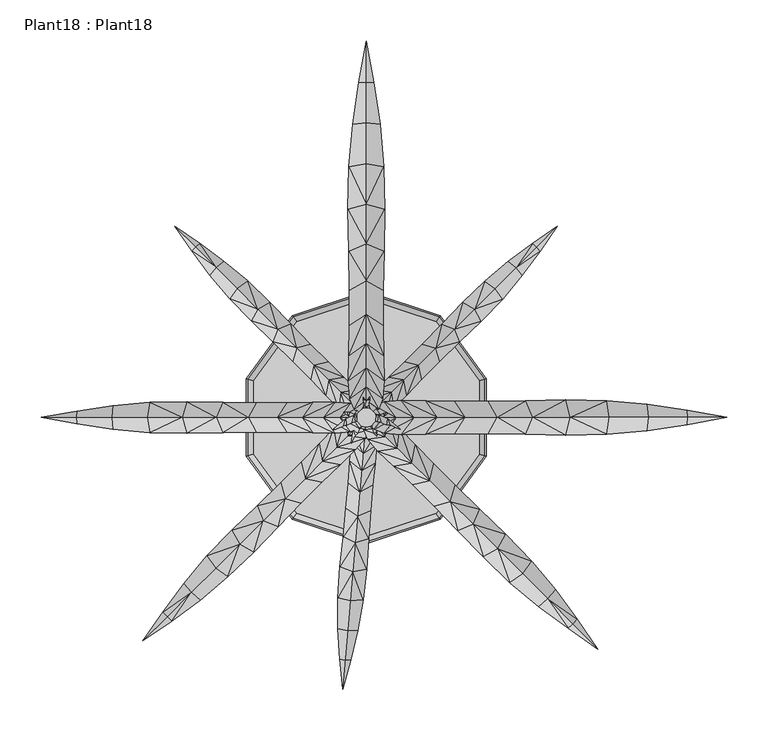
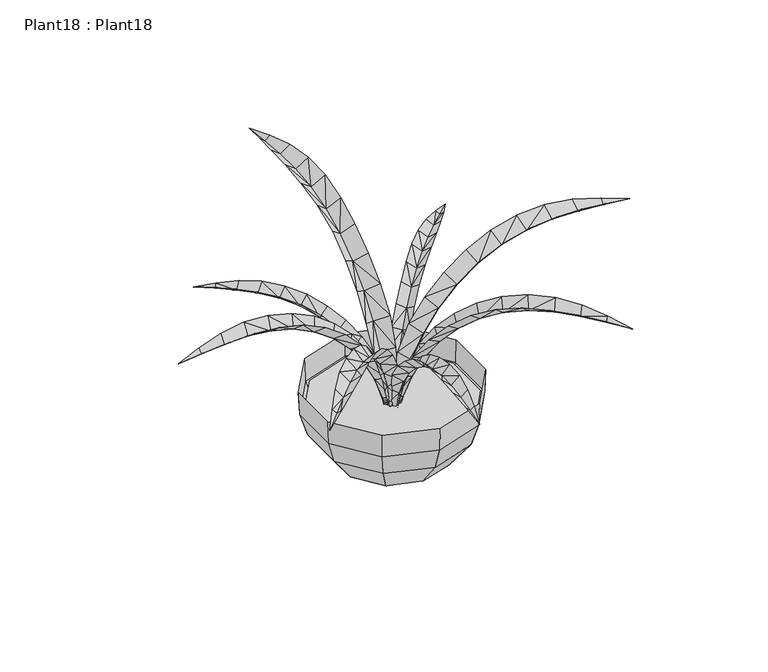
"""IFC4 building model written with IfcOpenShell, lengths in millimetres: proxy geometry, Plant18 : Plant18."""

from ifc_helpers import new_model, si_unit, origin, place, context, project, spatial, triangles, source, transform, mapped, element, save


def plant18_plant18_a010a351(model_context):
    return source(origin(), model_context, "Body", "Tessellation", [
        triangles([(231.0383868, 231.0383868, 282.7934399), (210.4644064, 201.259445, 292.3641493), (180.9902425, 180.9902425, 289.7733554), (188.7321573, 171.7852811, 299.8927232), (155.8747152, 155.8747152, 290.3524807), (164.9272695, 143.2559996, 303.1540794), (139.1107221, 116.4335998, 300.4718485), (130.8811191, 130.8811191, 286.7863285), (88.6663176, 67.7570379, 275.2648842), (113.0198456, 91.2876056, 291.297354), (67.1779172, 46.207681, 253.01448), (48.7984794, 27.1271982, 225.9177509), (33.5280021, 11.4604798, 194.7976846), (45.4456772, 45.4456772, 215.127839), (19.05, 19.05, 153.1315142), (21.4579199, 1.3716001, 159.9895258), (5.69976, -2.25552, 85.0696803), (12.4358404, -2.5907999, 122.8953602), (201.259445, 210.4644064, 292.3641493), (206.0448179, 206.0448179, 286.8167953), (171.7852811, 188.7321573, 299.8927232), (143.2559996, 164.9272695, 303.1540794), (116.4335998, 139.1107221, 300.4718485), (83.8809628, 83.8809628, 261.7927232), (91.2876056, 113.0198456, 291.297354), (106.6190372, 106.6190372, 277.3375229), (67.7570379, 88.6663176, 275.2648842), (63.3069598, 63.3069598, 240.8529585), (46.207681, 67.1779172, 253.01448), (11.4604798, 33.5280021, 194.7976846), (27.1271982, 48.7984794, 225.9177509), (30.6628813, 30.6628813, 185.5622382), (-2.5907999, 12.4358404, 122.8953602), (1.3716001, 21.4579199, 159.9895258), (10.4851204, 10.4851204, 118.7195976), (-2.25552, 5.69976, 85.0696803), (4.5415199, 4.5415199, 83.1189545), (9.0525605, 405.2316241, 388.4676038), (16.6725606, 354.8176955, 398.9222345), (22.3113607, 251.4904814, 399.7451858), (21.3360001, 303.2759833, 403.4942302), (0.0, 257.5864756, 380.6951858), (20.6044813, 153.9239985, 364.6627341), (21.3969611, 201.0765528, 386.9740903), (0.0, 209.8547961, 367.5583423), (20.6349596, 111.587275, 333.6950386), (0.0, 89.4892779, 280.9646271), (21.3055196, 74.7369579, 295.9912899), (19.781521, 22.463761, 204.2160051), (21.7017595, 44.2874403, 252.6487319), (0.0, 60.3503997, 239.81663), (7.8333603, 3.3832802, 99.9439177), (14.8132798, 9.6926394, 152.582874), (0.0, 8.9611201, 97.2312017), (-9.0525605, 405.2316241, 388.4676038), (0.0, 454.7615951, 375.1478499), (-16.6725606, 354.8176955, 398.9222345), (0.0, 405.5668871, 380.7256708), (-21.3360001, 303.2759833, 403.4942302), (0.0, 306.8116868, 385.6634508), (0.0, 356.2502389, 384.8709483), (-22.3113607, 251.4904814, 399.7451858), (-20.6044813, 153.9239985, 364.6627341), (-21.3969611, 201.0765528, 386.9740903), (0.0, 165.1406286, 345.917512), (-20.6349596, 111.587275, 333.6950386), (-21.3055196, 74.7369579, 295.9912899), (0.0, 124.6022418, 316.7786293), (-21.7017595, 44.2874403, 252.6487319), (-19.781521, 22.463761, 204.2160051), (0.0, 37.4599205, 194.6452775), (0.0, 20.6349596, 146.7611999), (-7.8333603, 3.3832802, 99.9439177), (-14.8132798, 9.6926394, 152.582874), (-201.6861631, 210.9215914, 292.8823226), (-231.526075, 231.526075, 283.3116132), (-206.471536, 206.471536, 287.3044836), (-172.1510292, 189.1284086, 300.4108784), (-143.5607957, 165.2625688, 303.7027378), (-116.6774348, 139.3850332, 300.9900036), (-106.8323962, 106.8323962, 277.825193), (-67.8789599, 88.8492007, 275.7220692), (-91.4704796, 113.2636806, 291.8155273), (-46.2991225, 67.2998392, 253.4411981), (-27.1881592, 48.889921, 226.2835171), (-30.72384, 30.72384, 185.8365674), (-11.4909604, 33.5889586, 195.1024807), (-10.4851204, 10.4851204, 118.8415197), (2.5907999, 12.4663198, 123.0477582), (-1.3716001, 21.4884004, 160.2028849), (2.2860001, 5.69976, 85.1306413), (-210.9215914, 201.6861631, 292.8823226), (-189.1284086, 172.1510292, 300.4108784), (-181.3864756, 181.3864756, 290.2915106), (-165.2625688, 143.5607957, 303.7027378), (-156.2099964, 156.2099964, 290.8706358), (-131.1554392, 131.1554392, 287.2740167), (-113.2636806, 91.4704796, 291.8155273), (-139.3850332, 116.6774348, 300.9900036), (-63.4288818, 63.4288818, 241.2492097), (-88.8492007, 67.8789599, 275.7220692), (-84.0638459, 84.0638459, 262.2499083), (-67.2998392, 46.2991225, 253.4411981), (-33.5889586, 11.4909604, 195.1024807), (-48.889921, 27.1881592, 226.2835171), (-45.5675992, 45.5675992, 215.463102), (-21.4884004, 1.3716001, 160.2028849), (-12.4663198, -2.5907999, 123.0477582), (-19.0804805, 19.0804805, 153.3448733), (-5.69976, -2.2860001, 85.1306413), (-4.5720002, 4.5720002, 83.1799246), (-392.9176955, 0.0, 330.5251376), (-350.1237597, 7.8333603, 342.0465637), (-306.5678427, 14.4170399, 351.0686511), (-217.2919148, 19.2633613, 351.7696984), (-222.5649578, 0.0, 335.310456), (-262.0365492, 18.4403999, 355.0005695), (-173.7359978, 18.4708793, 340.7664093), (-181.3255237, 0.0, 323.9719039), (-132.9842429, 17.8003204, 321.4725652), (-107.6553565, 0.0, 280.080724), (-96.4082414, 17.8308009, 294.7111354), (-38.2524026, 18.7451994, 224.6985666), (-77.2972804, 0.0, 249.1435135), (-64.5871187, 18.4099194, 262.1279862), (-8.3820005, 12.8015998, 138.2572859), (-19.3852789, 17.0992799, 182.8495222), (-2.9260799, 6.7665604, 92.750634), (-306.5678427, -14.4170399, 351.0686511), (-307.817512, 0.0, 338.9375965), (-350.1237597, -7.8333603, 342.0465637), (-350.4285739, 0.0, 335.3409774), (-265.0845644, 0.0, 339.6081588), (-262.0365492, -18.4403999, 355.0005695), (-217.2919148, -19.2633613, 351.7696984), (-132.9842429, -17.8003204, 321.4725652), (-173.7359978, -18.4708793, 340.7664093), (-142.6768744, 0.0, 305.2572032), (-96.4082414, -17.8308009, 294.7111354), (-64.5871187, -18.4099194, 262.1279862), (-19.3852789, -17.0992799, 182.8495222), (-38.2524026, -18.7451994, 224.6985666), (-52.1512817, 0.0, 213.6038405), (-17.8308009, 0.0, 133.197602), (-8.3820005, -12.8015998, 138.2572859), (-32.3697607, 0.0, 174.5894341), (-7.7419199, 0.0, 90.4036843), (-2.9260799, -6.7665604, 92.750634), (-32.1868798, -292.3946344, 294.8330393), (-28.7731188, -328.7877437, 285.2013598), (-25.6641607, -293.2175856, 289.2247152), (-34.5947997, -217.931992, 305.7448915), (-19.4157594, -221.8029585, 292.8213707), (-34.5033604, -255.48337, 302.422547), (-32.0344795, -180.4111173, 303.0321573), (-28.1940004, -144.0179989, 293.766244), (-24.6278413, -109.9718394, 277.550882), (-5.66928, -64.6785603, 216.8347298), (-20.1472804, -52.6999219, 227.7160968), (-21.9760796, -79.3699192, 255.0871187), (-15.7276794, -14.9961595, 161.1172913), (-18.5013598, -30.6323985, 196.2911981), (-11.3080795, -6.0959999, 123.6573594), (-2.3774399, -27.09672, 154.1983096), (-1.31064, -14.9047191, 119.4206449), (-5.8826402, -1.9507201, 85.4354374), (-0.57912, -6.4922403, 83.4847207), (-19.0804805, -293.5528849, 294.8330393), (-22.5247198, -257.5864756, 292.2422454), (-10.3936799, -257.5864756, 302.422547), (0.21336, -183.2457553, 303.0321573), (-3.7490399, -220.6142411, 305.7448915), (2.7432002, -146.730724, 293.766244), (-16.3068001, -186.2328004, 289.1942483), (5.1511203, -112.5931184, 277.550882), (-13.289279, -151.7294377, 279.6540058), (-10.4546398, -119.3901599, 263.956799), (-7.8943196, -90.0988791, 242.8036933), (10.668, -55.3821573, 227.7160968), (7.8638397, -81.9911981, 255.0871187), (12.8930402, -33.3755995, 196.2911981), (-3.8100001, -43.6473585, 186.9643147), (10.0888793, -7.9552801, 123.6573594), (12.8625597, -17.4955198, 161.1172913), (5.4559198, -2.9260799, 85.4354374), (243.9619257, -255.1175856, 344.3935135), (208.2393424, -228.7828922, 353.5070197), (219.3950386, -219.3950386, 341.2540612), (173.6445608, -199.9183205, 357.4694232), (188.9455164, -188.9455164, 341.9551085), (110.6728867, -137.0075983, 343.1133591), (141.1528758, -168.615362, 354.208067), (56.0222391, -81.4120819, 296.6923372), (82.1131202, -107.4724825, 323.667126), (32.8879203, -59.1616823, 263.865362), (13.8988802, -40.6298374, 226.13111), (1.64592, -25.9994395, 183.9163176), (37.1551199, -37.1551199, 214.91448), (-3.1394401, -15.0875999, 138.9888001), (-2.7432002, -6.8884802, 93.1164002), (5.5168797, -5.5168797, 90.7694414), (280.0502571, -280.0502571, 332.8111173), (255.1175856, -243.9619257, 344.3935135), (249.7531238, -249.7531238, 337.6574421), (228.7828922, -208.2393424, 353.5070197), (199.9183205, -173.6445608, 357.4694232), (158.6484013, -158.6484013, 337.626957), (137.0075983, -110.6728867, 343.1133591), (168.615362, -141.1528758, 354.208067), (107.4724825, -82.1131202, 323.667126), (129.2351985, -129.2351985, 326.1664647), (76.7486402, -76.7486402, 281.9704887), (101.6812844, -101.6812844, 307.3298238), (59.1616823, -32.8879203, 263.865362), (81.4120819, -56.0222391, 296.6923372), (55.1078418, -55.1078418, 250.7589672), (23.07336, -23.07336, 175.5952775), (40.6298374, -13.8988802, 226.13111), (12.7101606, -12.7101606, 133.8986311), (25.9994395, -1.64592, 183.9163176), (15.0875999, 3.1394401, 138.9888001), (6.8884802, 2.7432002, 93.1164002), (435.6506249, 0.0, 361.3708566), (388.5285739, 0.0, 366.7048697), (339.9129367, -15.971519, 384.1394523), (388.1932746, -8.6868, 374.1115033), (240.9443955, -21.3664806, 384.9319184), (290.5353729, -20.4216005, 388.5285739), (246.7660968, 0.0, 366.6743846), (201.0460859, 0.0, 354.0861631), (147.4622473, -19.72056, 351.3124589), (192.6336089, -20.4825593, 372.709445), (119.3596839, 0.0, 305.4400772), (158.1911981, 0.0, 333.3597756), (106.8933573, -19.7510405, 321.6554392), (71.5975193, -20.4216005, 285.5366409), (42.4281606, -20.7873599, 244.0228776), (35.9054392, 0.0, 188.4578463), (21.5188786, -18.9585596, 197.6018376), (19.7510405, 0.0, 142.5854374), (3.2308802, -7.4980798, 97.7188809), (9.2964001, -14.1732003, 148.1632764), (8.5953602, 0.0, 95.1280779), (388.1932746, 8.6868, 374.1115033), (341.2845826, 0.0, 370.6672731), (339.9129367, 15.971519, 384.1394523), (293.9186329, 0.0, 371.4597756), (240.9443955, 21.3664806, 384.9319184), (290.5353729, 20.4216005, 388.5285739), (192.6336089, 20.4825593, 372.709445), (147.4622473, 19.72056, 351.3124589), (106.8933573, 19.7510405, 321.6554392), (71.5975193, 20.4216005, 285.5366409), (42.4281606, 20.7873599, 244.0228776), (85.7097575, 0.0, 271.1500917), (57.8205623, 0.0, 231.7089672), (21.5188786, 18.9585596, 197.6018376), (9.2964001, 14.1732003, 148.1632764), (3.2308802, 7.4980798, 97.7188809), (-240.8834254, -240.8834254, 327.3552003), (-246.0650495, -235.3056045, 333.8474639), (-220.675193, -200.8327087, 342.6256708), (-211.5921719, -211.5921719, 330.8299155), (-192.8164829, -167.4571296, 346.4661704), (-153.0096103, -153.0096103, 327.2942302), (-124.6632028, -124.6632028, 316.260456), (-162.6412899, -136.123677, 343.3267181), (-103.6624861, -79.1870361, 313.8525361), (-132.1308066, -106.7409683, 332.5977582), (-57.058563, -31.7296789, 256.1539141), (-78.5469589, -54.0410373, 287.8226388), (-39.1972804, -13.4111999, 219.7608048), (-53.157116, -53.157116, 243.5352076), (-25.08504, -1.58496, 179.0700109), (-35.8444804, -35.8444804, 208.9708747), (-12.2529596, -12.2529596, 130.8201671), (-22.2503997, -22.2503997, 171.0537488), (-5.334, -5.334, 89.2149578), (-6.6446395, 2.65176, 91.4704796), (-14.5694402, 3.01752, 135.7274348), (0.0, 0.0, 47.0915978), (-270.1137633, -270.1137633, 322.6613008), (-235.3056045, -246.0650495, 333.8474639), (-182.2399119, -182.2399119, 331.5004778), (-200.8327087, -220.675193, 342.6256708), (-167.4571296, -192.8164829, 346.4661704), (-136.123677, -162.6412899, 343.3267181), (-106.7409683, -132.1308066, 332.5977582), (-98.084638, -98.084638, 298.0943955), (-79.1870361, -103.6624861, 313.8525361), (-31.7296789, -57.058563, 256.1539141), (-74.0054392, -74.0054392, 273.6189636), (-54.0410373, -78.5469589, 287.8226388), (-13.4111999, -39.1972804, 219.7608048), (-1.58496, -25.08504, 179.0700109), (3.01752, -14.5694402, 135.7274348), (2.65176, -6.6446395, 91.4704796)], [[1, 20, 2], [2, 3, 4], [20, 3, 2], [4, 5, 6], [3, 5, 4], [6, 8, 7], [5, 8, 6], [7, 26, 10], [8, 26, 7], [10, 24, 9], [26, 24, 10], [11, 24, 28], [9, 24, 11], [12, 28, 14], [11, 28, 12], [13, 14, 32], [12, 14, 13], [16, 32, 15], [13, 32, 16], [18, 15, 35], [16, 15, 18], [17, 35, 37], [18, 35, 17], [37, 281, 17], [20, 1, 19], [3, 19, 21], [3, 20, 19], [5, 21, 22], [5, 3, 21], [8, 22, 23], [8, 5, 22], [26, 23, 25], [26, 8, 23], [24, 25, 27], [24, 26, 25], [24, 29, 28], [24, 27, 29], [28, 31, 14], [28, 29, 31], [14, 30, 32], [14, 31, 30], [32, 34, 15], [32, 30, 34], [15, 33, 35], [15, 34, 33], [35, 36, 37], [35, 33, 36], [281, 37, 36], [56, 58, 38], [38, 61, 39], [58, 61, 38], [39, 60, 41], [61, 60, 39], [41, 42, 40], [60, 42, 41], [40, 45, 44], [42, 45, 40], [44, 65, 43], [45, 65, 44], [46, 65, 68], [43, 65, 46], [48, 68, 47], [46, 68, 48], [50, 47, 51], [48, 47, 50], [49, 51, 71], [50, 51, 49], [53, 71, 72], [49, 71, 53], [52, 72, 54], [53, 72, 52], [54, 281, 52], [58, 56, 55], [61, 55, 57], [61, 58, 55], [60, 57, 59], [60, 61, 57], [42, 59, 62], [42, 60, 59], [45, 62, 64], [45, 42, 62], [65, 64, 63], [65, 45, 64], [65, 66, 68], [65, 63, 66], [68, 67, 47], [68, 66, 67], [47, 69, 51], [47, 67, 69], [51, 70, 71], [51, 69, 70], [71, 74, 72], [71, 70, 74], [72, 73, 54], [72, 74, 73], [281, 54, 73], [77, 76, 75], [94, 75, 78], [94, 77, 75], [96, 78, 79], [96, 94, 78], [97, 79, 80], [97, 96, 79], [81, 80, 83], [81, 97, 80], [102, 83, 82], [102, 81, 83], [102, 84, 100], [102, 82, 84], [100, 85, 106], [100, 84, 85], [106, 87, 86], [106, 85, 87], [86, 90, 109], [86, 87, 90], [109, 89, 88], [109, 90, 89], [88, 91, 111], [88, 89, 91], [281, 111, 91], [76, 77, 92], [92, 94, 93], [77, 94, 92], [93, 96, 95], [94, 96, 93], [95, 97, 99], [96, 97, 95], [99, 81, 98], [97, 81, 99], [98, 102, 101], [81, 102, 98], [103, 102, 100], [101, 102, 103], [105, 100, 106], [103, 100, 105], [104, 106, 86], [105, 106, 104], [107, 86, 109], [104, 86, 107], [108, 109, 88], [107, 109, 108], [110, 88, 111], [108, 88, 110], [111, 281, 110], [112, 132, 113], [113, 130, 114], [132, 130, 113], [114, 133, 117], [130, 133, 114], [117, 116, 115], [133, 116, 117], [115, 119, 118], [116, 119, 115], [118, 138, 120], [119, 138, 118], [122, 138, 121], [120, 138, 122], [125, 121, 124], [122, 121, 125], [123, 124, 143], [125, 124, 123], [127, 143, 146], [123, 143, 127], [126, 146, 144], [127, 146, 126], [128, 144, 147], [126, 144, 128], [147, 281, 128], [132, 112, 131], [130, 131, 129], [130, 132, 131], [133, 129, 134], [133, 130, 129], [116, 134, 135], [116, 133, 134], [119, 135, 137], [119, 116, 135], [138, 137, 136], [138, 119, 137], [138, 139, 121], [138, 136, 139], [121, 140, 124], [121, 139, 140], [124, 142, 143], [124, 140, 142], [143, 141, 146], [143, 142, 141], [146, 145, 144], [146, 141, 145], [144, 148, 147], [144, 145, 148], [281, 147, 148], [150, 151, 149], [149, 169, 154], [151, 169, 149], [154, 153, 152], [169, 153, 154], [152, 174, 155], [153, 174, 152], [155, 176, 156], [174, 176, 155], [156, 177, 157], [176, 177, 156], [160, 177, 178], [157, 177, 160], [159, 178, 158], [160, 178, 159], [162, 158, 182], [159, 158, 162], [161, 182, 164], [162, 182, 161], [163, 164, 165], [161, 164, 163], [166, 165, 167], [163, 165, 166], [167, 281, 166], [151, 150, 168], [169, 168, 170], [169, 151, 168], [153, 170, 172], [153, 169, 170], [174, 172, 171], [174, 153, 172], [176, 171, 173], [176, 174, 171], [177, 173, 175], [177, 176, 173], [177, 180, 178], [177, 175, 180], [178, 179, 158], [178, 180, 179], [158, 181, 182], [158, 179, 181], [182, 184, 164], [182, 181, 184], [164, 183, 165], [164, 184, 183], [165, 185, 167], [165, 183, 185], [281, 167, 185], [204, 202, 186], [188, 186, 187], [188, 204, 186], [190, 187, 189], [190, 188, 187], [207, 189, 192], [207, 190, 189], [211, 192, 191], [211, 207, 192], [213, 191, 194], [213, 211, 191], [213, 193, 212], [213, 194, 193], [212, 195, 216], [212, 193, 195], [216, 196, 198], [216, 195, 196], [198, 197, 217], [198, 196, 197], [217, 199, 219], [217, 197, 199], [219, 200, 201], [219, 199, 200], [281, 201, 200], [202, 204, 203], [203, 188, 205], [204, 188, 203], [205, 190, 206], [188, 190, 205], [206, 207, 209], [190, 207, 206], [209, 211, 208], [207, 211, 209], [208, 213, 210], [211, 213, 208], [215, 213, 212], [210, 213, 215], [214, 212, 216], [215, 212, 214], [218, 216, 198], [214, 216, 218], [220, 198, 217], [218, 198, 220], [221, 217, 219], [220, 217, 221], [222, 219, 201], [221, 219, 222], [201, 281, 222], [223, 224, 226], [226, 245, 225], [224, 245, 226], [225, 247, 228], [245, 247, 225], [228, 229, 227], [247, 229, 228], [227, 230, 232], [229, 230, 227], [232, 234, 231], [230, 234, 232], [235, 234, 233], [231, 234, 235], [236, 233, 255], [235, 233, 236], [237, 255, 256], [236, 255, 237], [239, 256, 238], [237, 256, 239], [242, 238, 240], [239, 238, 242], [241, 240, 243], [242, 240, 241], [243, 281, 241], [224, 223, 244], [245, 244, 246], [245, 224, 244], [247, 246, 249], [247, 245, 246], [229, 249, 248], [229, 247, 249], [230, 248, 250], [230, 229, 248], [234, 250, 251], [234, 230, 250], [234, 252, 233], [234, 251, 252], [233, 253, 255], [233, 252, 253], [255, 254, 256], [255, 253, 254], [256, 257, 238], [256, 254, 257], [238, 258, 240], [238, 257, 258], [240, 259, 243], [240, 258, 259], [281, 243, 259], [282, 260, 261], [261, 263, 262], [260, 263, 261], [262, 284, 264], [263, 284, 262], [264, 265, 267], [284, 265, 264], [267, 266, 269], [265, 266, 267], [269, 289, 268], [266, 289, 269], [271, 289, 292], [268, 289, 271], [270, 292, 273], [271, 292, 270], [272, 273, 275], [270, 273, 272], [274, 275, 277], [272, 275, 274], [280, 277, 276], [274, 277, 280], [279, 276, 278], [280, 276, 279], [278, 281, 279], [260, 282, 283], [263, 283, 285], [263, 260, 283], [284, 285, 286], [284, 263, 285], [265, 286, 287], [265, 284, 286], [266, 287, 288], [266, 265, 287], [289, 288, 290], [289, 266, 288], [289, 293, 292], [289, 290, 293], [292, 291, 273], [292, 293, 291], [273, 294, 275], [273, 291, 294], [275, 295, 277], [275, 294, 295], [277, 296, 276], [277, 295, 296], [276, 297, 278], [276, 296, 297], [281, 278, 297]], closed=False),
        triangles([(143.1035925, -46.5124816, 117.3784822), (144.9323962, -47.0915978, 160.1419148), (144.9323962, 47.0915978, 160.1419148), (130.4239159, -42.3671996, 75.6513598), (94.4575248, 30.6933595, 25.7860805), (41.3003997, 13.4111999, 0.42672), (94.4575248, -30.6933595, 25.7860805), (25.5117604, -35.1434399, 0.42672), (41.3003997, -13.4111999, 0.42672), (89.5807149, -123.2916023, 160.1419148), (0.0, -152.4, 160.1419148), (88.4529585, -121.7371187, 117.3784822), (0.0, -150.4797593, 117.3784822), (58.3692025, -80.3452775, 25.7860805), (80.6195976, -110.9471977, 75.6513598), (0.0, -99.3038405, 25.7860805), (-88.4529585, -121.7371187, 117.3784822), (-89.5807149, -123.2916023, 160.1419148), (0.0, -137.1295204, 75.6513598), (-58.3692025, -80.3452775, 25.7860805), (0.0, -43.4339995, 0.42672), (-25.5117604, -35.1434399, 0.42672), (-143.1035925, -46.5124816, 117.3784822), (-80.6195976, -110.9471977, 75.6513598), (-94.4575248, -30.6933595, 25.7860805), (0.0, 0.0, 0.0), (-143.1035925, 46.5124816, 117.3784822), (-144.9323962, -47.0915978, 160.1419148), (-144.9323962, 47.0915978, 160.1419148), (-94.4575248, 30.6933595, 25.7860805), (-130.4239159, -42.3671996, 75.6513598), (-130.4239159, 42.3671996, 75.6513598), (-41.3003997, -13.4111999, 0.42672), (-88.4529585, 121.7371187, 117.3784822), (-80.6195976, 110.9471977, 75.6513598), (-41.3003997, 13.4111999, 0.42672), (-58.3692025, 80.3452775, 25.7860805), (-89.5807149, 123.2916023, 160.1419148), (0.0, 150.4797593, 117.3784822), (0.0, 137.1295204, 75.6513598), (-25.5117604, 35.1434399, 0.42672), (0.0, 152.4, 160.1419148), (89.5807149, 123.2916023, 160.1419148), (0.0, 99.3038405, 25.7860805), (0.0, 43.4339995, 0.42672), (25.5117604, 35.1434399, 0.42672), (88.4529585, 121.7371187, 117.3784822), (143.1035925, 46.5124816, 117.3784822), (80.6195976, 110.9471977, 75.6513598), (130.4239159, 42.3671996, 75.6513598), (58.3692025, 80.3452775, 25.7860805)], [[48, 2, 1], [3, 2, 48], [50, 1, 4], [48, 1, 50], [5, 4, 7], [50, 4, 5], [6, 7, 9], [5, 7, 6], [9, 26, 6], [1, 10, 12], [2, 10, 1], [1, 15, 4], [12, 15, 1], [7, 15, 14], [4, 15, 7], [9, 14, 8], [7, 14, 9], [8, 26, 9], [10, 13, 12], [11, 13, 10], [12, 19, 15], [13, 19, 12], [14, 19, 16], [15, 19, 14], [8, 16, 21], [14, 16, 8], [21, 26, 8], [13, 18, 17], [11, 18, 13], [19, 17, 24], [13, 17, 19], [19, 20, 16], [24, 20, 19], [16, 22, 21], [20, 22, 16], [22, 26, 21], [18, 23, 17], [28, 23, 18], [24, 23, 31], [17, 23, 24], [24, 25, 20], [31, 25, 24], [20, 33, 22], [25, 33, 20], [33, 26, 22], [23, 29, 27], [28, 29, 23], [31, 27, 32], [23, 27, 31], [25, 32, 30], [31, 32, 25], [33, 30, 36], [25, 30, 33], [36, 26, 33], [27, 38, 34], [29, 38, 27], [27, 35, 32], [34, 35, 27], [30, 35, 37], [32, 35, 30], [36, 37, 41], [30, 37, 36], [41, 26, 36], [38, 39, 34], [42, 39, 38], [34, 40, 35], [39, 40, 34], [37, 40, 44], [35, 40, 37], [41, 44, 45], [37, 44, 41], [45, 26, 41], [39, 43, 47], [42, 43, 39], [40, 47, 49], [39, 47, 40], [40, 51, 44], [49, 51, 40], [44, 46, 45], [51, 46, 44], [46, 26, 45], [43, 48, 47], [3, 48, 43], [49, 48, 50], [47, 48, 49], [49, 5, 51], [50, 5, 49], [51, 6, 46], [5, 6, 51], [6, 26, 46]], closed=False),
        triangles([(-84.24672, 115.9459115, 120.5788773), (-136.306551, 44.2874403, 120.5788773), (-136.306551, -44.2874403, 120.5788773), (-84.24672, -115.9459115, 120.5788773), (0.0, -143.3169516, 120.5788773), (84.24672, -115.9459115, 120.5788773), (136.306551, -44.2874403, 120.5788773), (136.306551, 44.2874403, 120.5788773), (0.0, 0.0, 120.5788773), (84.24672, 115.9459115, 120.5788773), (0.0, 143.3169516, 120.5788773)], [[2, 9, 1], [3, 9, 2], [4, 9, 3], [5, 9, 4], [6, 9, 5], [7, 9, 6], [8, 9, 7], [10, 9, 8], [11, 9, 10], [1, 9, 11]], closed=False),
    ])


if __name__ == "__main__":
    model = new_model("IFC4")
    model_context = context("Model", 3, world=origin())
    ifc_project = project(units=[si_unit("LENGTHUNIT", "METRE", prefix="MILLI")], contexts=[model_context])
    site = spatial("IfcSite", under=ifc_project)
    building = spatial("IfcBuilding", under=site)
    placement = place(None, origin())
    plant18_plant18_shape = plant18_plant18_a010a351(model_context)
    element("IfcBuildingElementProxy", 1, Name="Plant18 : Plant18", ObjectType="Plant18 : Plant18", at=placement, inside=building, context=model_context, shape_type="MappedRepresentation", body=[
        mapped(plant18_plant18_shape, transform((0.0, 0.0, 0.0), x_axis=(1.0, 0.0, 0.0), y_axis=(0.0, 1.0, 0.0), z_axis=(0.0, 0.0, 1.0))),
    ])
    save(model, "model.ifc")
